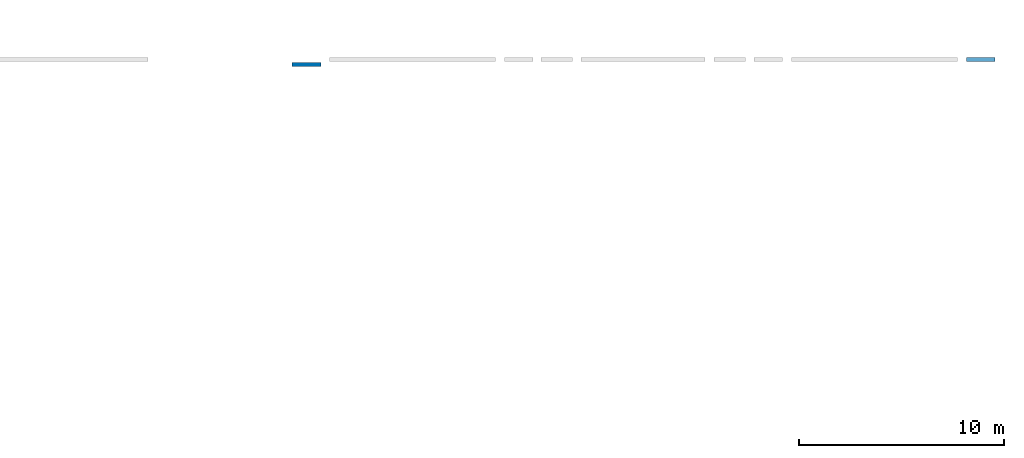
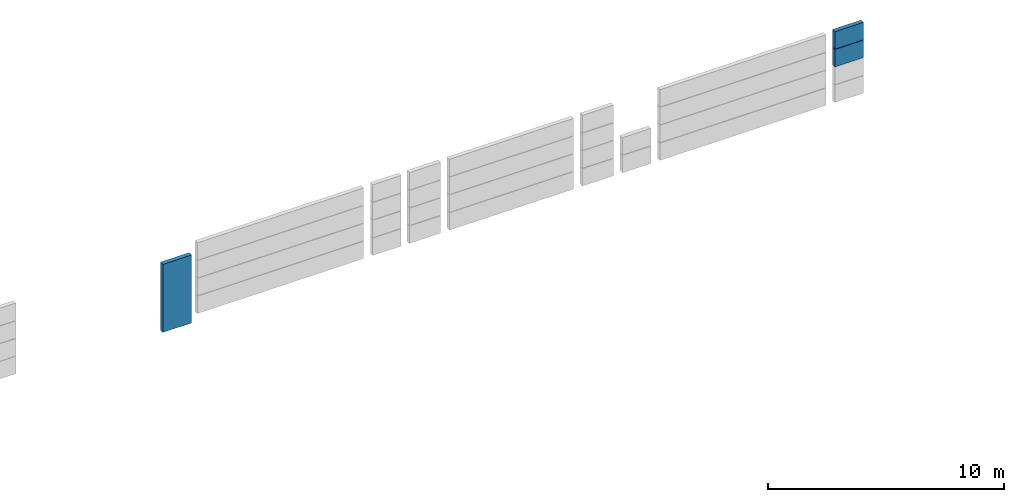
# One storey, part 2 of 3: 2 beams, 1 wall.
"""IFC2X3 building model written with IfcOpenShell, lengths in millimetres."""

from ifc_helpers import new_model, entity, si_unit, converted_unit, derived_unit, direction, frame, frame_2d, origin, place, context, subcontext, project, spatial, rectangle, extrude, material, layer, layer_set, layer_usage, type_object, element, save


model = new_model("IFC2X3")

# Units and contexts
model_context = context("Model", 3, precision=0.01, world=origin(), true_north=direction((6.12303176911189e-17, 1.0)))
body_context = subcontext(model_context, "Body", "Model", "MODEL_VIEW")
ifc_project = project(units=[si_unit("LENGTHUNIT", "METRE", prefix="MILLI"), si_unit("AREAUNIT", "SQUARE_METRE"), si_unit("VOLUMEUNIT", "CUBIC_METRE"), converted_unit("PLANEANGLEUNIT", "DEGREE", entity("IfcRatioMeasure", 0.0174532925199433), si_unit("PLANEANGLEUNIT", "RADIAN"), dimensions=[0, 0, 0, 0, 0, 0, 0]), si_unit("MASSUNIT", "GRAM", prefix="KILO"), derived_unit("MASSDENSITYUNIT", [(si_unit("MASSUNIT", "GRAM", prefix="KILO"), 1), (si_unit("LENGTHUNIT", "METRE"), -3)]), derived_unit("MOMENTOFINERTIAUNIT", [(si_unit("LENGTHUNIT", "METRE"), 4)]), si_unit("TIMEUNIT", "SECOND"), si_unit("FREQUENCYUNIT", "HERTZ"), si_unit("THERMODYNAMICTEMPERATUREUNIT", "DEGREE_CELSIUS"), derived_unit("THERMALTRANSMITTANCEUNIT", [(si_unit("MASSUNIT", "GRAM", prefix="KILO"), 1), (si_unit("THERMODYNAMICTEMPERATUREUNIT", "KELVIN"), -1), (si_unit("TIMEUNIT", "SECOND"), -3)]), derived_unit("VOLUMETRICFLOWRATEUNIT", [(si_unit("LENGTHUNIT", "METRE"), 3), (si_unit("TIMEUNIT", "SECOND"), -1)]), si_unit("ELECTRICCURRENTUNIT", "AMPERE"), si_unit("ELECTRICVOLTAGEUNIT", "VOLT"), si_unit("POWERUNIT", "WATT"), si_unit("FORCEUNIT", "NEWTON", prefix="KILO"), si_unit("ILLUMINANCEUNIT", "LUX"), si_unit("LUMINOUSFLUXUNIT", "LUMEN"), si_unit("LUMINOUSINTENSITYUNIT", "CANDELA"), derived_unit("USERDEFINED", [(si_unit("MASSUNIT", "GRAM", prefix="KILO"), -1), (si_unit("LENGTHUNIT", "METRE"), -2), (si_unit("TIMEUNIT", "SECOND"), 3), (si_unit("LUMINOUSFLUXUNIT", "LUMEN"), 1)]), derived_unit("LINEARVELOCITYUNIT", [(si_unit("LENGTHUNIT", "METRE"), 1), (si_unit("TIMEUNIT", "SECOND"), -1)]), si_unit("PRESSUREUNIT", "PASCAL"), derived_unit("USERDEFINED", [(si_unit("LENGTHUNIT", "METRE"), -2), (si_unit("MASSUNIT", "GRAM", prefix="KILO"), 1), (si_unit("TIMEUNIT", "SECOND"), -2)]), derived_unit("LINEARFORCEUNIT", [(si_unit("MASSUNIT", "GRAM", prefix="KILO"), 1), (si_unit("LENGTHUNIT", "METRE"), 1), (si_unit("TIMEUNIT", "SECOND"), -2), (si_unit("LENGTHUNIT", "METRE"), -1)]), derived_unit("PLANARFORCEUNIT", [(si_unit("MASSUNIT", "GRAM", prefix="KILO"), 1), (si_unit("LENGTHUNIT", "METRE"), 1), (si_unit("TIMEUNIT", "SECOND"), -2), (si_unit("LENGTHUNIT", "METRE"), -2)])], contexts=[model_context])

# Site, building, storey
site_placement = place(None, frame((10627.5135316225, 21939.0796949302, 0.0)))
site = spatial("IfcSite", under=ifc_project, at=site_placement, Name="Default", CompositionType="ELEMENT")
building_placement = place(site_placement, origin())
building = spatial("IfcBuilding", under=site, at=building_placement, CompositionType="ELEMENT")
storey_placement = place(building_placement, frame((0.0, 0.0, 7320.0)))
storey = spatial("IfcBuildingStorey", under=building, at=storey_placement, Name="R+2", CompositionType="ELEMENT", Elevation=7320.0)

# Beams
ifc_material_1 = material(Name="Concrete, Precast Smooth, Light Grey")
beam_type = type_object("IfcBeamType", Name="NBS_AndertonConcreteProductsLtd_PrcstConcPnls_BallastBoard300:PPT TYPE7", PredefinedType="NOTDEFINED")
beam_1_placement = place(storey_placement, origin())
element("IfcBeam", 1, at=beam_1_placement, inside=storey, type_object=beam_type, material=ifc_material_1, Name="NBS_AndertonConcreteProductsLtd_PrcstConcPnls_BallastBoard300:PPT TYPE7", ObjectType="NBS_AndertonConcreteProductsLtd_PrcstConcPnls_BallastBoard300:PPT TYPE7", context=body_context, shape_type="SweptSolid", body=[
    extrude(rectangle(XDim=898.300000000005, YDim=200.0, at=frame_2d((5.40012479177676e-13, 1.08713038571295e-12), x_axis=(1.0, 0.0))), frame((62169.4864683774, 16595.9203050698, 2485.55000000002), z_axis=(1.0, 0.0, 0.0), x_axis=(0.0, 0.0, -1.0)), (0.0, 0.0, 1.0), 1395.0),
])
beam_2_placement = place(storey_placement, origin())
element("IfcBeam", 2, at=beam_2_placement, inside=storey, type_object=beam_type, material=ifc_material_1, Name="NBS_AndertonConcreteProductsLtd_PrcstConcPnls_BallastBoard300:PPT TYPE7", ObjectType="NBS_AndertonConcreteProductsLtd_PrcstConcPnls_BallastBoard300:PPT TYPE7", context=body_context, shape_type="SweptSolid", body=[
    extrude(rectangle(XDim=898.300000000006, YDim=200.0, at=frame_2d((-1.08002495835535e-12, -1.08713038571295e-12), x_axis=(1.0, 0.0))), frame((62169.4864683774, 16595.9203050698, 3403.85000000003), z_axis=(1.0, 0.0, 0.0), x_axis=(0.0, 0.0, -1.0)), (0.0, 0.0, 1.0), 1395.0),
])

# Wall
ifc_material_2 = material(Name="Concrete - Cast-in-Place Concrete")
ifc_layer = layer(ifc_material_2, 200.0)
ifc_layer_set = layer_set([ifc_layer], Name="Basic Wall:Mur S/SOL 20")
ifc_layer_usage = layer_usage(ifc_layer_set, "AXIS2", "POSITIVE", -100.0)
wall_type = type_object("IfcWallType", Name="Basic Wall:Mur S/SOL 20", PredefinedType="STANDARD", material=ifc_layer_set)
wall_placement = place(storey_placement, frame((29195.4864683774, 16365.9203050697, 0.0)))
element("IfcWallStandardCase", 3, at=wall_placement, inside=storey, type_object=wall_type, material=ifc_layer_usage, Name="Basic Wall:Mur S/SOL 20", ObjectType="Basic Wall:Mur S/SOL 20", context=body_context, shape_type="SweptSolid", body=[
    extrude(rectangle(XDim=1404.0, YDim=199.999999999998, at=frame_2d((702.000000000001, 0.0), x_axis=(-1.0, 0.0))), origin(), (0.0, 0.0, 1.0), 3520.0),
])

save(model, "model.ifc")
